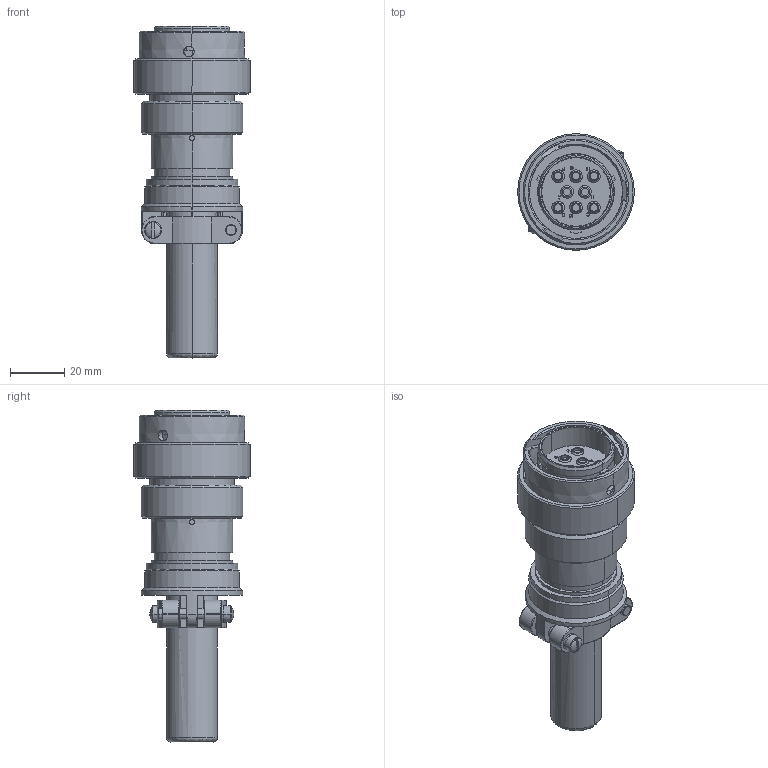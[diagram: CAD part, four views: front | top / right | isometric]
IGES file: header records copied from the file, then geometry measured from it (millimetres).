
Start section:  PTC IGES file: c-hd36-18-8pn-059-99-3d.igs
Global section: file name: c-hd36-18-8pn-059-99-3d.igs; native system: Pro/ENGINEER by Parametric Technology Corporation; preprocessor: 2011490; author: workeradm; organization: Unknown; units: millimetre
Bounding box: 42.98 x 42.98 x 122.41 mm (x, y, z)
Surface area: 21325.9 mm2 (no closed solid volume)
Topology: 0 solids, 0 shells, 659 faces, 3288 edges, 3288 vertices
Faces by surface type: bspline 346, revolution 313
